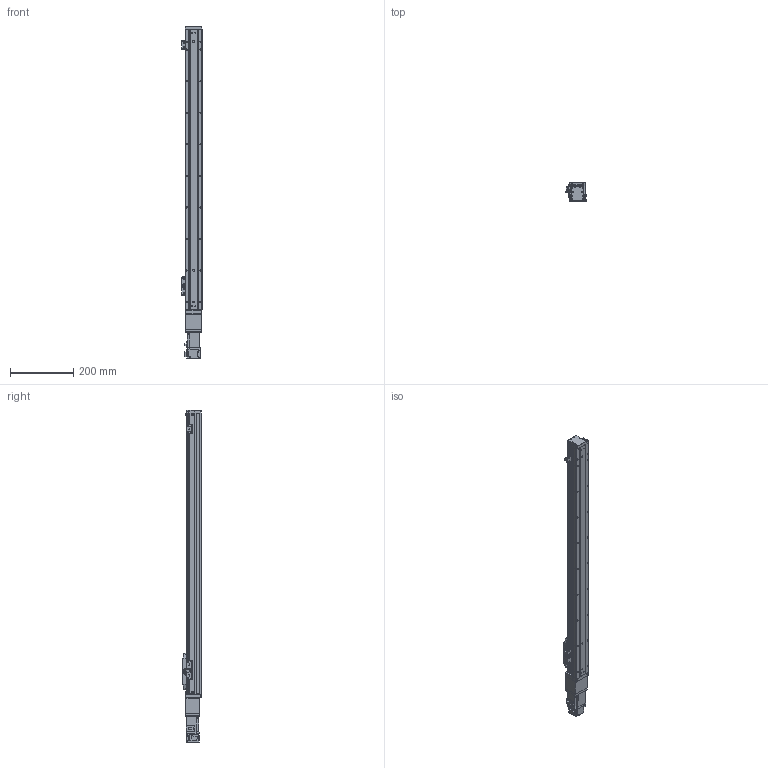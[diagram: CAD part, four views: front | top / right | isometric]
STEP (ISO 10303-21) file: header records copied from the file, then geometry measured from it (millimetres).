
FILE_DESCRIPTION (( 'STEP AP203' ), '1' );
FILE_NAME ('GTH5-750-BC-M10-C4.step', '2022-09-23T00:41:07', ( '微软用户' ), ( '微软中国' ), 'SwSTEP 2.0', 'SolidWorks 2020', '' );
FILE_SCHEMA (( 'CONFIG_CONTROL_DESIGN' ));
Length unit declared in the file: millimetre
Products named in the file (20): GTH50-006; GTH50-013; CTHA60-006-2_CTHA60-006-1; GTH50-004; GTH50-023; HG-KR13; GBT 70.3-M3℅6; GBT 70.1-M3℅6; GTH5-750-BC-M10-C4; BTH-M3X5X6; GBT96.1-2002 3×0.8; GTH50-028; GTH50-001_750; GTH50-024; GTH50-022-1; GBT 70.1-M4×16; GBT 70.1-M2.5×6; CTHA60-027; GTH50-003; CTHA60-013
Assembly tree (60 placements, depth 2):
  GTH5-750-BC-M10-C4
    GTH50-006
    GTH50-004
    GBT 70.3-M3℅6  x6
    BTH-M3X5X6  x8
    GTH50-001_750
    GBT 70.1-M4×16  x8
    GTH50-003
    GTH50-013
    GTH50-023  x3
    GBT 70.1-M3℅6  x12
    GBT96.1-2002 3×0.8  x6
    GTH50-024  x3
    GBT 70.1-M2.5×6  x2
    GTH50-028  x2
    GTH50-022-1
    CTHA60-027
    CTHA60-013
    CTHA60-006-2_CTHA60-006-1
    HG-KR13
Bounding box: 63.8 x 60 x 1052.6 mm (x, y, z)
Volume: 2180024.7 mm3; surface area: 333549.2 mm2
Topology: 62 solids, 62 shells, 2061 faces, 4740 edges, 2894 vertices
Faces by surface type: plane 1105, cylinder 555, cone 235, torus 158, sphere 8
Entity records: 34551 total; most frequent: DIRECTION 5591, CARTESIAN_POINT 5463, ORIENTED_EDGE 5166, EDGE_CURVE 2583, AXIS2_PLACEMENT_3D 1928, VECTOR 1735, LINE 1735, VERTEX_POINT 1634
